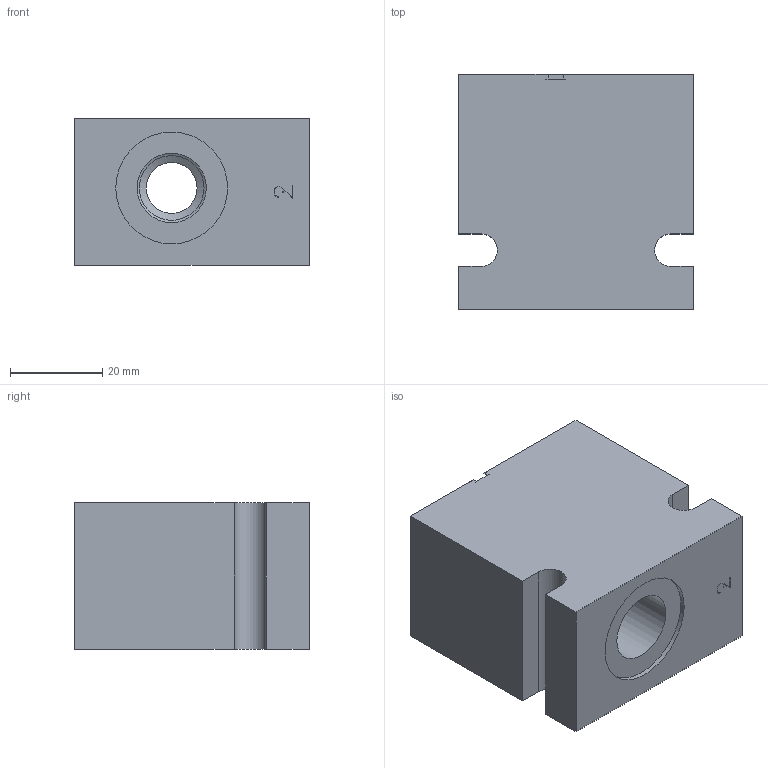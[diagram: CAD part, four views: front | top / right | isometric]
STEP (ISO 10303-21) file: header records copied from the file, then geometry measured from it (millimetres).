
FILE_DESCRIPTION( ( 'Unknown' ), '1' );
FILE_NAME( 'G:/Graphic Design/Graphic Design 2/Data Sheets/Delta Bodies/DRAWINGS/B-DPBB2.stp', 'Unknown', ( 'Unknown' ), ( 'Unknown' ), 'PSStep 16.0.42', 'Unknown', ' ' );
FILE_SCHEMA( ( 'AUTOMOTIVE_DESIGN { 1 0 10303 214 1 1 1 1 }' ) );
Length unit declared in the file: millimetre
Products named in the file (2): Assem1; B-DPBB2
Assembly tree (1 placements, depth 2):
  Assem1
    B-DPBB2
Bounding box: 50.8 x 50.8 x 31.75 mm (x, y, z)
Surface area: 15296.1 mm2 (no closed solid volume)
Topology: 0 solids, 80 shells, 80 faces, 395 edges, 375 vertices
Faces by surface type: plane 57, cylinder 17, cone 6
Full cylindrical faces by diameter (mm): 0.2 x2, 11 x2, 12.7 x1, 14 x1, 15 x4, 17.33 x2, 24.2 x2
Entity records: 4346 total; most frequent: CARTESIAN_POINT 1110, DIRECTION 438, ORIENTED_EDGE 362, EDGE_CURVE 362, VERTEX_POINT 362, B_SPLINE_CURVE_WITH_KNOTS 152, AXIS2_PLACEMENT_3D 146, LINE 146
